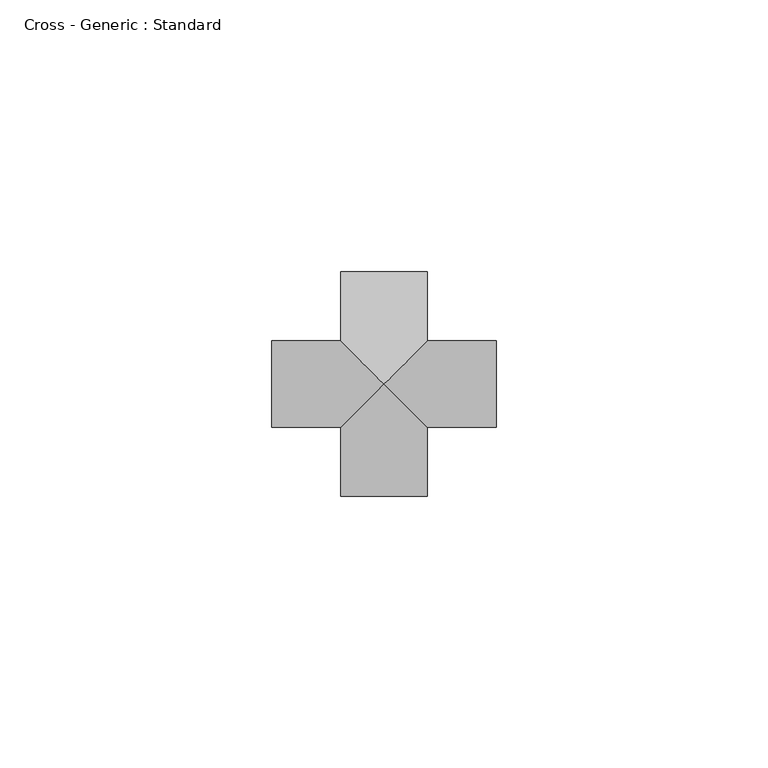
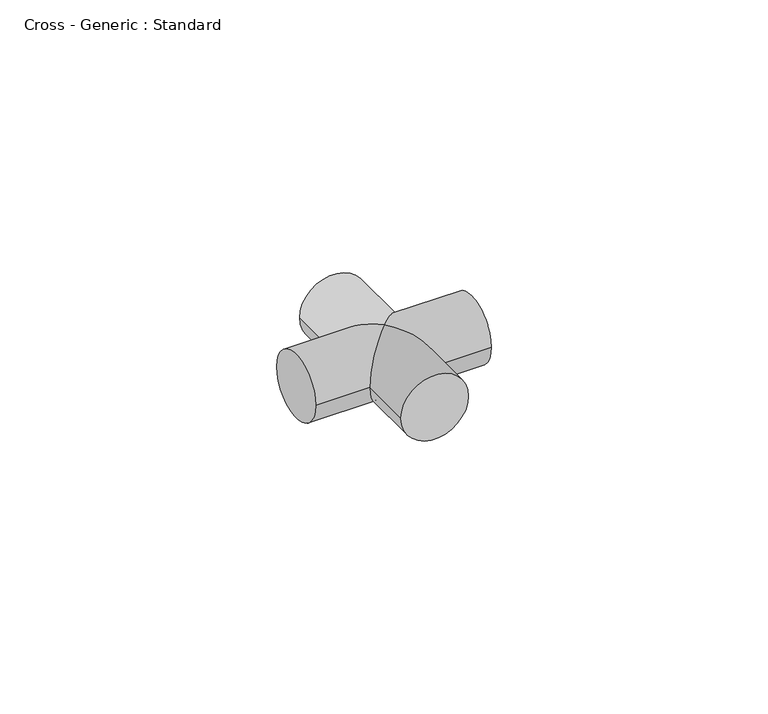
"""IFC4 building model written with IfcOpenShell, lengths in millimetres: pipe fitting geometry, Cross - Generic : Standard."""

import ifcopenshell
import ifcopenshell.guid

model = None  # the IFC model being written
_history = None  # IfcOwnerHistory: only IFC2X3 demands one
_inside = {}  # id of a spatial element -> (the spatial element, [elements in it])
_under = {}  # id of a project, library or spatial element -> (it, [spatial elements below it])
_declared = {}  # id of a project -> (the project, [libraries it declares])
_typed = {}  # id of a type object -> (the type object, [elements of that type])
_made_of = {}  # id of a material, layer set ... -> (it, [elements and type objects made of it])


def new_model(schema):
    """Start an empty IFC model of exactly this schema.

    Asked for "IFC4X3", IfcOpenShell would pick the latest addendum, in which some entities
    have other attributes; the version numbers below select the first issue.
    IFC2X3 requires an IfcOwnerHistory on every rooted entity: one is made here for all.
    """
    global model, _history
    if schema == "IFC4X3":
        model = ifcopenshell.file(schema_version=(4, 3, 0, 0))
    else:
        model = ifcopenshell.file(schema=schema)
    _inside.clear()
    _under.clear()
    _declared.clear()
    _typed.clear()
    _made_of.clear()
    _history = None
    if model.schema == "IFC2X3":
        org = make("IfcOrganization", Name="unknown")
        user = make(
            "IfcPersonAndOrganization",
            ThePerson=make("IfcPerson", FamilyName="unknown"),
            TheOrganization=org,
        )
        app = make(
            "IfcApplication",
            ApplicationDeveloper=org,
            Version="unknown",
            ApplicationFullName="unknown",
            ApplicationIdentifier="unknown",
        )
        _history = make(
            "IfcOwnerHistory",
            OwningUser=user,
            OwningApplication=app,
            ChangeAction="ADDED",
            CreationDate=0,
        )
    return model


def make(cls, **values):
    """One entity of the class cls with the attributes given. An attribute that is None is left unset."""
    return model.create_entity(
        cls, **{name: value for name, value in values.items() if value is not None}
    )


def rooted(cls, **values):
    """An entity with a GlobalId (a new one), such as an element, a storey or a relation."""
    return make(cls, GlobalId=ifcopenshell.guid.new(), OwnerHistory=_history, **values)


def si_unit(unit_type, name, prefix=None):
    """IfcSIUnit, for example si_unit("LENGTHUNIT", "METRE", prefix="MILLI")."""
    return make("IfcSIUnit", UnitType=unit_type, Prefix=prefix, Name=name)


def assignment(units):
    """IfcUnitAssignment: the units of a project."""
    return None if units is None else make("IfcUnitAssignment", Units=units)


def point(xyz):
    """IfcCartesianPoint."""
    return None if xyz is None else make("IfcCartesianPoint", Coordinates=xyz)


def direction(xyz):
    """IfcDirection."""
    return None if xyz is None else make("IfcDirection", DirectionRatios=xyz)


def frame(location, z_axis=None, x_axis=None):
    """IfcAxis2Placement3D, a coordinate frame: its origin and axes. An axis left out is left unset."""
    return make(
        "IfcAxis2Placement3D",
        Location=point(location),
        Axis=direction(z_axis),
        RefDirection=direction(x_axis),
    )


def origin():
    """The frame at (0, 0, 0) with its axes left unset."""
    return frame((0.0, 0.0, 0.0))


def place(relative_to, where):
    """IfcLocalPlacement: puts the frame where relative to a parent placement (None: the world)."""
    return make(
        "IfcLocalPlacement", PlacementRelTo=relative_to, RelativePlacement=where
    )


def context(
    kind, dimensions, precision=None, world=None, true_north=None, identifier=None
):
    """IfcGeometricRepresentationContext, for example the 3D "Model" context."""
    return make(
        "IfcGeometricRepresentationContext",
        ContextIdentifier=identifier,
        ContextType=kind,
        CoordinateSpaceDimension=dimensions,
        Precision=precision,
        WorldCoordinateSystem=world,
        TrueNorth=true_north,
    )


def project(units=None, contexts=None):
    """IfcProject with its units and contexts."""
    return rooted(
        "IfcProject",
        Name="project",
        RepresentationContexts=contexts,
        UnitsInContext=assignment(units),
    )


def spatial(cls, under=None, at=None, **own):
    """A site, building, storey or space (cls), placed at a placement, below another one or the project."""
    s = rooted(cls, ObjectPlacement=at, **own)
    if under is not None:
        _under.setdefault(under.id(), (under, []))[1].append(s)
    return s


def circle_curve(where, radius):
    """IfcCircle in the frame where."""
    return make("IfcCircle", Position=where, Radius=radius)


def ellipse_curve(where, semi_axis1, semi_axis2):
    """IfcEllipse in the frame where."""
    return make(
        "IfcEllipse", Position=where, SemiAxis1=semi_axis1, SemiAxis2=semi_axis2
    )


def shape(context_of_items, identifier, shape_type, items):
    """IfcShapeRepresentation: the items that make up one representation, for example the "Body"."""
    return make(
        "IfcShapeRepresentation",
        ContextOfItems=context_of_items,
        RepresentationIdentifier=identifier,
        RepresentationType=shape_type,
        Items=items,
    )


def source(mapping_origin, context_of_items, identifier, shape_type, items):
    """IfcRepresentationMap: a shape defined once, which mapped items show again and again."""
    return make(
        "IfcRepresentationMap",
        MappingOrigin=mapping_origin,
        MappedRepresentation=shape(context_of_items, identifier, shape_type, items),
    )


def transform(
    local_origin,
    x_axis=None,
    y_axis=None,
    z_axis=None,
    scale=None,
    scale2=None,
    scale3=None,
    uniform=True,
):
    """IfcCartesianTransformationOperator3D, or its non-uniform kind. x_axis, y_axis, z_axis: its Axis1, 2, 3."""
    if uniform:
        return make(
            "IfcCartesianTransformationOperator3D",
            Axis1=direction(x_axis),
            Axis2=direction(y_axis),
            LocalOrigin=point(local_origin),
            Scale=scale,
            Axis3=direction(z_axis),
        )
    return make(
        "IfcCartesianTransformationOperator3DnonUniform",
        Axis1=direction(x_axis),
        Axis2=direction(y_axis),
        LocalOrigin=point(local_origin),
        Scale=scale,
        Axis3=direction(z_axis),
        Scale2=scale2,
        Scale3=scale3,
    )


def mapped(mapping_source, mapping_target):
    """IfcMappedItem: shows the shape of a source again, moved by a transform."""
    return make(
        "IfcMappedItem", MappingSource=mapping_source, MappingTarget=mapping_target
    )


def made_of(thing, what):
    """Note that an element or type object is made of a material, layer set ...; save() writes the relation."""
    if what is not None:
        _made_of.setdefault(what.id(), (what, []))[1].append(thing)
    return thing


def element(
    cls,
    number,
    at=None,
    inside=None,
    cuts=None,
    type_object=None,
    material=None,
    context=None,
    identifier="Body",
    shape_type=None,
    held_by="IfcProductDefinitionShape",
    body=None,
    shapes=None,
    **own,
):
    """One element of the class cls, such as IfcWall. Its Tag is "e" and its number.

    at: its placement. inside: the storey or other place that contains it. cuts: it is an
    opening in that element (IfcRelVoidsElement). A single representation is given by context,
    identifier, shape_type and body (its items); several are given by shapes. held_by: the class
    of the entity that holds the representations. save() writes the other relations.
    """
    e = rooted(cls, Tag="e%d" % number, ObjectPlacement=at, **own)
    if body is not None:
        shapes = [shape(context, identifier, shape_type, body)]
    if shapes is not None:
        e.Representation = make(held_by, Representations=shapes)
    if inside is not None:
        _inside.setdefault(inside.id(), (inside, []))[1].append(e)
    if cuts is not None:
        rooted(
            "IfcRelVoidsElement", RelatingBuildingElement=cuts, RelatedOpeningElement=e
        )
    if type_object is not None:
        _typed.setdefault(type_object.id(), (type_object, []))[1].append(e)
    return made_of(e, material)


def aggregate(whole, parts):
    """IfcRelAggregates: a whole, such as a stair, and the parts it consists of."""
    return rooted("IfcRelAggregates", RelatingObject=whole, RelatedObjects=parts)


def save(model, path):
    """Write the relations noted so far, then the file.

    IfcRelAggregates (storeys below a building ...), IfcRelContainedInSpatialStructure (elements
    in a storey), IfcRelDefinesByType, IfcRelAssociatesMaterial and IfcRelDeclares: one each for
    every whole, place, type object, material and project.
    """
    for whole, parts in _under.values():
        aggregate(whole, parts)
    for where, things in _inside.values():
        rooted(
            "IfcRelContainedInSpatialStructure",
            RelatedElements=things,
            RelatingStructure=where,
        )
    for kind, things in _typed.values():
        rooted("IfcRelDefinesByType", RelatedObjects=things, RelatingType=kind)
    for what, things in _made_of.values():
        rooted("IfcRelAssociatesMaterial", RelatedObjects=things, RelatingMaterial=what)
    for by, libraries in _declared.values():
        rooted("IfcRelDeclares", RelatingContext=by, RelatedDefinitions=libraries)
    model.write(path)


def plane_surface(at):
    """IfcPlane: the flat surface through the origin of the frame at, square to its z axis."""
    return make("IfcPlane", Position=at)


def cylinder_surface(at, radius):
    """IfcCylindricalSurface: all points at the distance radius from the z axis of the frame at."""
    return make("IfcCylindricalSurface", Position=at, Radius=radius)


def advanced_brep(points, edges, surfaces, faces):
    """IfcAdvancedBrep: a solid bounded by faces that lie on surfaces and meet in shared edges.

    An edge is (start, end): straight between two places in points (the first is 0);
    or (start, end, curve); or (start, end, curve, False) where it runs against its curve.
    A face is (place in surfaces, loops), or (place, loops, False) where it looks against
    its surface's normal. A loop lists edges by number (the first is 1), with a minus sign
    where the edge is run from its end to its start. The first loop is the outer one.
    """
    corners = [point(p) for p in points]
    vertices = [make("IfcVertexPoint", VertexGeometry=c) for c in corners]
    made = []
    for start, end, *more in edges:
        made.append(
            make(
                "IfcEdgeCurve",
                EdgeStart=vertices[start],
                EdgeEnd=vertices[end],
                EdgeGeometry=more[0] if more else make("IfcPolyline", Points=[corners[start], corners[end]]),
                SameSense=more[1] if len(more) > 1 else True,
            )
        )
    hull = []
    for where, loops, *sense in faces:
        bounds = []
        for j, loop in enumerate(loops):
            ring = [make("IfcOrientedEdge", EdgeElement=made[abs(k) - 1], Orientation=k > 0) for k in loop]
            bounds.append(
                make(
                    "IfcFaceOuterBound" if j == 0 else "IfcFaceBound",
                    Bound=make("IfcEdgeLoop", EdgeList=ring),
                    Orientation=True,
                )
            )
        hull.append(make("IfcAdvancedFace", Bounds=bounds, FaceSurface=surfaces[where], SameSense=sense[0] if sense else True))
    return make("IfcAdvancedBrep", Outer=make("IfcClosedShell", CfsFaces=hull))


def cross_generic_standard_dbe3c70b(model_context):
    return source(origin(), model_context, "Body", "AdvancedBrep", [
        advanced_brep(
        [(7.9375, 20.6375, 0.0), (-7.9375, 20.6375, 0.0), (-7.9375, 7.9375, 0.0), (0.0, 0.0, 7.9375), (7.9375, 7.9375, 0.0), (0.0, 0.0, -7.9375), (-20.6375, -7.9375, 0.0), (-20.6375, 7.9375, 0.0), (20.6375, -7.9375, 0.0), (20.6375, 7.9375, 0.0), (-7.9375, -7.9375, 0.0), (7.9375, -7.9375, 0.0), (-7.9375, -20.6375, 0.0), (7.9375, -20.6375, 0.0)],
        [
            (0, 1, circle_curve(frame((0.0, 20.6375, 0.0), z_axis=(0.0, 1.0, 0.0), x_axis=(-1.0, 0.0, 0.0)), 7.9375)),
            (1, 0, circle_curve(frame((0.0, 20.6375, 0.0), z_axis=(0.0, 1.0, 0.0), x_axis=(-1.0, 0.0, 0.0)), 7.9375)),
            (1, 2),
            (2, 3, ellipse_curve(frame((0.0, 0.0, 0.0), z_axis=(0.7071067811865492, 0.7071067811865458, 0.0), x_axis=(0.7071067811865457, -0.7071067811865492, 0.0)), 11.2253202, 7.9375)),
            (3, 4, ellipse_curve(frame((0.0, 0.0, 0.0), z_axis=(-0.7071067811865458, 0.7071067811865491, 0.0), x_axis=(-0.7071067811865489, -0.707106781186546, 0.0)), 11.2253202, 7.9375)),
            (4, 0),
            (4, 5, ellipse_curve(frame((0.0, 0.0, 0.0), z_axis=(-0.7071067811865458, 0.7071067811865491, 0.0), x_axis=(-0.7071067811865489, -0.707106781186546, 0.0)), 11.2253202, 7.9375)),
            (5, 2, ellipse_curve(frame((0.0, 0.0, 0.0), z_axis=(0.7071067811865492, 0.7071067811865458, 0.0), x_axis=(0.7071067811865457, -0.7071067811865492, 0.0)), 11.2253202, 7.9375)),
            (6, 7, circle_curve(frame((-20.6375, 0.0, 0.0), z_axis=(-1.0, 0.0, 0.0), x_axis=(0.0, 1.0, 0.0)), 7.9375)),
            (7, 6, circle_curve(frame((-20.6375, 0.0, 0.0), z_axis=(-1.0, 0.0, 0.0), x_axis=(0.0, 1.0, 0.0)), 7.9375)),
            (8, 9, circle_curve(frame((20.6375, 0.0, 0.0), z_axis=(1.0, 0.0, 0.0), x_axis=(0.0, 1.0, 0.0)), 7.9375)),
            (9, 8, circle_curve(frame((20.6375, 0.0, 0.0), z_axis=(1.0, 0.0, 0.0), x_axis=(0.0, 1.0, 0.0)), 7.9375)),
            (6, 10),
            (10, 3, ellipse_curve(frame((0.0, 0.0, 0.0), z_axis=(-0.707106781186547, 0.7071067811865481, 0.0), x_axis=(-0.707106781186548, -0.707106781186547, 0.0)), 11.2253202, 7.9375)),
            (2, 7),
            (9, 4),
            (3, 11, ellipse_curve(frame((0.0, 0.0, 0.0), z_axis=(0.7071067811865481, 0.7071067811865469, 0.0), x_axis=(-0.7071067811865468, 0.7071067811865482, 0.0)), 11.2253202, 7.9375)),
            (11, 8),
            (5, 10, ellipse_curve(frame((0.0, 0.0, 0.0), z_axis=(-0.707106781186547, 0.7071067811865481, 0.0), x_axis=(-0.707106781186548, -0.707106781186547, 0.0)), 11.2253202, 7.9375)),
            (11, 5, ellipse_curve(frame((0.0, 0.0, 0.0), z_axis=(0.7071067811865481, 0.7071067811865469, 0.0), x_axis=(-0.7071067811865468, 0.7071067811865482, 0.0)), 11.2253202, 7.9375)),
            (12, 13, circle_curve(frame((0.0, -20.6375, 0.0), z_axis=(0.0, -1.0, 0.0), x_axis=(1.0, 0.0, 0.0)), 7.9375)),
            (13, 12, circle_curve(frame((0.0, -20.6375, 0.0), z_axis=(0.0, -1.0, 0.0), x_axis=(1.0, 0.0, 0.0)), 7.9375)),
            (13, 11),
            (10, 12),
        ],
        [
            plane_surface(frame((0.0, 20.6375, 0.0), z_axis=(0.0, 1.0, 0.0), x_axis=(0.0, 0.0, 1.0))),
            cylinder_surface(frame((0.0, 0.0, 0.0), z_axis=(0.0, -1.0, 0.0), x_axis=(-1.0, 0.0, 0.0)), 7.9375),
            plane_surface(frame((-20.6375, 0.0, 0.0), z_axis=(-1.0, 0.0, 0.0), x_axis=(0.0, 0.0, 1.0))),
            plane_surface(frame((20.6375, 0.0, 0.0), z_axis=(1.0, 0.0, 0.0), x_axis=(0.0, 0.0, 1.0))),
            cylinder_surface(frame((-20.6375, 0.0, 0.0), z_axis=(-1.0, 0.0, 0.0), x_axis=(0.0, 1.0, 0.0)), 7.9375),
            plane_surface(frame((0.0, -20.6375, 0.0), z_axis=(0.0, -1.0, 0.0), x_axis=(0.0, 0.0, 1.0))),
            cylinder_surface(frame((0.0, 0.0, 0.0), z_axis=(0.0, 1.0, 0.0), x_axis=(1.0, 0.0, 0.0)), 7.9375),
        ],
        [
            (0, [[1, 2]]),
            (1, [[-2, 3, 4, 5, 6]]),
            (1, [[-1, -6, 7, 8, -3]]),
            (2, [[9, 10]]),
            (3, [[11, 12]]),
            (4, [[-9, 13, 14, -4, 15]]),
            (4, [[-12, 16, -5, 17, 18]]),
            (4, [[-10, -15, -8, 19, -13]]),
            (4, [[-11, -18, 20, -7, -16]]),
            (5, [[21, 22]]),
            (6, [[-22, 23, -17, -14, 24]]),
            (6, [[-21, -24, -19, -20, -23]]),
        ],
    ),
    ])


if __name__ == "__main__":
    model = new_model("IFC4")
    model_context = context("Model", 3, world=origin())
    ifc_project = project(units=[si_unit("LENGTHUNIT", "METRE", prefix="MILLI")], contexts=[model_context])
    site = spatial("IfcSite", under=ifc_project)
    building = spatial("IfcBuilding", under=site)
    placement = place(None, origin())
    cross_generic_standard_shape = cross_generic_standard_dbe3c70b(model_context)
    element("IfcPipeFitting", 1, ObjectType="Cross - Generic : Standard", at=placement, inside=building, context=model_context, shape_type="MappedRepresentation", body=[
        mapped(cross_generic_standard_shape, transform((0.0, 0.0, 0.0), x_axis=(1.0, 0.0, 0.0), y_axis=(0.0, 1.0, 0.0), z_axis=(0.0, 0.0, 1.0))),
    ])
    save(model, "model.ifc")
